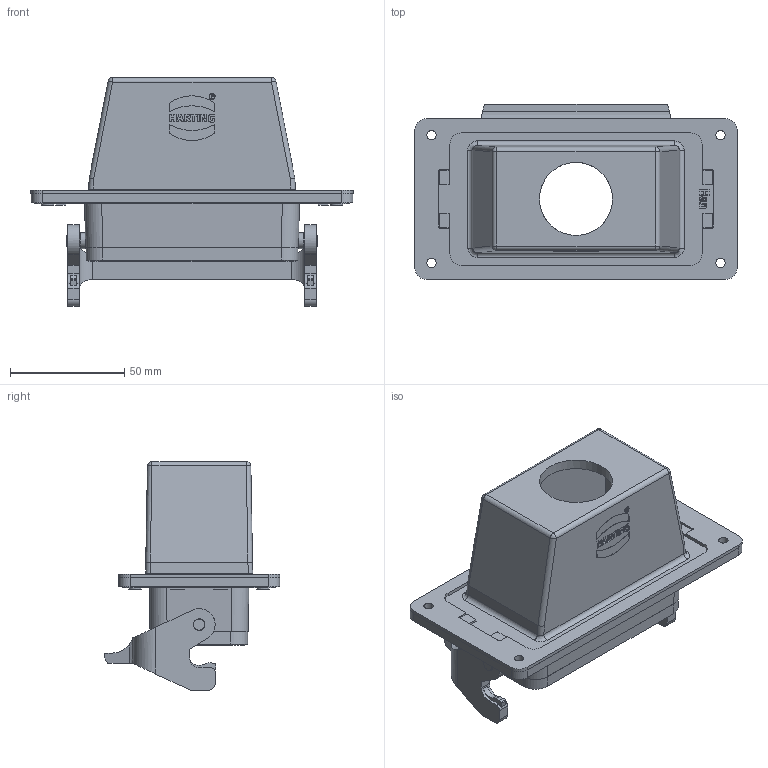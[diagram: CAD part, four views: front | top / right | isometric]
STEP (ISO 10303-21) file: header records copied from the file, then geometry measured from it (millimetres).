
FILE_DESCRIPTION(/* description */ (''),/* implementation_level */ '2;1');
FILE_NAME(/* name */ '100759298ugm000_c.stp',/* time_stamp */ '2022-03-12T06:27:09+01:00',/* author */ (''),/* organization */ (''),/* preprocessor_version */ 'ST-DEVELOPER v16.7',/* originating_system */ 'SIEMENS PLM Software NX 1911',/* authorisation */ '');
FILE_SCHEMA (('AUTOMOTIVE_DESIGN { 1 0 10303 214 3 1 1 1 }'));
Length unit declared in the file: millimetre
Products named in the file (1): 100759298ugm000_c
Bounding box: 141.02 x 76.76 x 100.2 mm (x, y, z)
Volume: 154830.1 mm3; surface area: 67449.8 mm2
Topology: 2 solids, 2 shells, 836 faces, 3356 edges, 3629 vertices
Faces by surface type: plane 520, cylinder 183, bspline 94, cone 19, torus 8, extrusion 8, sphere 4
Full cylindrical faces by diameter (mm): 3 x4, 4 x2, 4.1 x4, 4.8 x2, 5.1 x2, 7 x2, 32 x1
Entity records: 39586 total; most frequent: CARTESIAN_POINT 9261, DIRECTION 4468, ORIENTED_EDGE 4454, EDGE_CURVE 2227, VECTOR 2084, LINE 2076, VERTEX_POINT 1489, PRESENTATION_STYLE_ASSIGNMENT 1460
